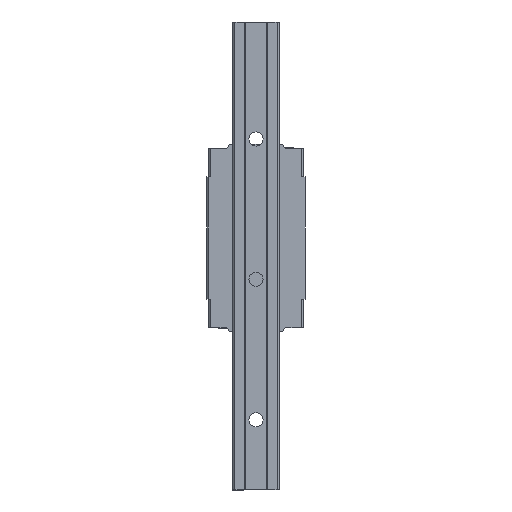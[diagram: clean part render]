
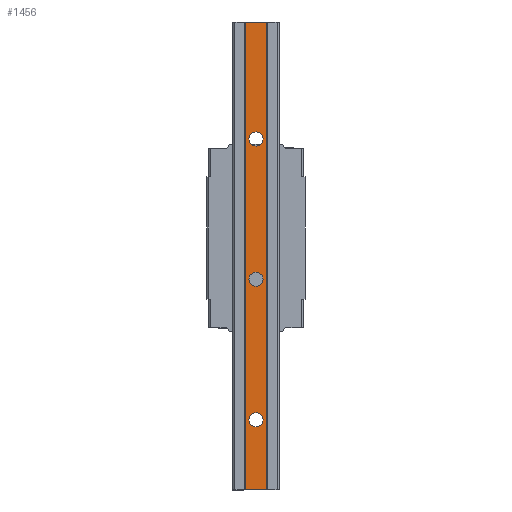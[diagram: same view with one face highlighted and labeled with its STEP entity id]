
A CAD part, front view. The second image highlights one B-rep face of the part: STEP entity #1456.
In plain terms, the highlighted planar face has unit normal (0, -1, 0).
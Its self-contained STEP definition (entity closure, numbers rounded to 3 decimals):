
#1456=ADVANCED_FACE('',(#3655,#3656,#3657,#3658),#1992,.T.);
#1992=PLANE('',#9708);
#2207=LINE('',#12431,#2851);
#2208=LINE('',#12434,#2852);
#2209=LINE('',#12436,#2853);
#2210=LINE('',#12438,#2854);
#2851=VECTOR('',#10348,1.);
#2852=VECTOR('',#10349,1.);
#2853=VECTOR('',#10350,1.);
#2854=VECTOR('',#10351,1.);
#3655=FACE_BOUND('',#3851,.T.);
#3656=FACE_BOUND('',#3852,.T.);
#3657=FACE_BOUND('',#3853,.T.);
#3658=FACE_BOUND('',#3854,.T.);
#3851=EDGE_LOOP('',(#4497));
#3852=EDGE_LOOP('',(#4498,#4499,#4500,#4501));
#3853=EDGE_LOOP('',(#4502));
#3854=EDGE_LOOP('',(#4503));
#4497=ORIENTED_EDGE('',*,*,#8090,.T.);
#4498=ORIENTED_EDGE('',*,*,#8091,.F.);
#4499=ORIENTED_EDGE('',*,*,#8092,.F.);
#4500=ORIENTED_EDGE('',*,*,#8093,.T.);
#4501=ORIENTED_EDGE('',*,*,#8094,.T.);
#4502=ORIENTED_EDGE('',*,*,#8095,.T.);
#4503=ORIENTED_EDGE('',*,*,#8096,.T.);
#7167=VERTEX_POINT('',#12430);
#7168=VERTEX_POINT('',#12432);
#7169=VERTEX_POINT('',#12433);
#7170=VERTEX_POINT('',#12435);
#7171=VERTEX_POINT('',#12437);
#7172=VERTEX_POINT('',#12440);
#7173=VERTEX_POINT('',#12442);
#8090=EDGE_CURVE('',#7167,#7167,#9425,.T.);
#8091=EDGE_CURVE('',#7168,#7169,#2207,.T.);
#8092=EDGE_CURVE('',#7170,#7168,#2208,.T.);
#8093=EDGE_CURVE('',#7170,#7171,#2209,.T.);
#8094=EDGE_CURVE('',#7171,#7169,#2210,.T.);
#8095=EDGE_CURVE('',#7172,#7172,#9426,.T.);
#8096=EDGE_CURVE('',#7173,#7173,#9427,.T.);
#9425=CIRCLE('',#9705,3.);
#9426=CIRCLE('',#9706,3.);
#9427=CIRCLE('',#9707,3.);
#9705=AXIS2_PLACEMENT_3D('',#12429,#10346,#10347);
#9706=AXIS2_PLACEMENT_3D('',#12439,#10352,#10353);
#9707=AXIS2_PLACEMENT_3D('',#12441,#10354,#10355);
#9708=AXIS2_PLACEMENT_3D('',#12443,#10356,#10357);
#10346=DIRECTION('',(0.,1.,0.));
#10347=DIRECTION('',(0.,0.,-1.));
#10348=DIRECTION('',(-1.,0.,0.));
#10349=DIRECTION('',(0.,0.,-1.));
#10350=DIRECTION('',(-1.,0.,0.));
#10351=DIRECTION('',(0.,0.,-1.));
#10352=DIRECTION('',(0.,1.,0.));
#10353=DIRECTION('',(0.,0.,-1.));
#10354=DIRECTION('',(0.,1.,0.));
#10355=DIRECTION('',(0.,0.,-1.));
#10356=DIRECTION('',(0.,-1.,0.));
#10357=DIRECTION('',(0.,0.,-1.));
#12429=CARTESIAN_POINT('',(-8.714,-7.953,130.));
#12430=CARTESIAN_POINT('',(-8.714,-7.953,127.));
#12431=CARTESIAN_POINT('',(-4.214,-7.953,100.));
#12432=CARTESIAN_POINT('',(-4.214,-7.953,100.));
#12433=CARTESIAN_POINT('',(-13.214,-7.953,100.));
#12434=CARTESIAN_POINT('',(-4.214,-7.953,280.));
#12435=CARTESIAN_POINT('',(-4.214,-7.953,300.));
#12436=CARTESIAN_POINT('',(2.286,-7.953,300.));
#12437=CARTESIAN_POINT('',(-13.214,-7.953,300.));
#12438=CARTESIAN_POINT('',(-13.214,-7.953,280.));
#12439=CARTESIAN_POINT('',(-8.714,-7.953,250.));
#12440=CARTESIAN_POINT('',(-8.714,-7.953,247.));
#12441=CARTESIAN_POINT('',(-8.714,-7.953,190.));
#12442=CARTESIAN_POINT('',(-8.714,-7.953,187.));
#12443=CARTESIAN_POINT('',(-4.214,-7.953,280.));
